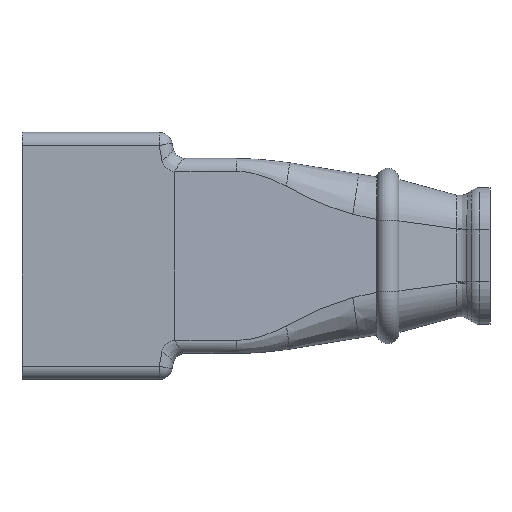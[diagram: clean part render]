
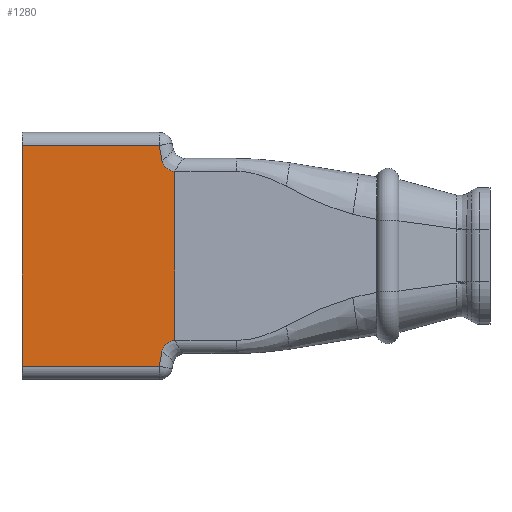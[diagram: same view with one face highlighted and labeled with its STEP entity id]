
A CAD part, top view. The second image highlights one B-rep face of the part: STEP entity #1280.
In plain terms, the highlighted planar face has unit normal (0, 0, 1).
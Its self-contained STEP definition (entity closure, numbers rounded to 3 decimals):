
#200=CARTESIAN_POINT('',(29.525,9.317,105.));
#210=VERTEX_POINT('',#200);
#370=CARTESIAN_POINT('',(29.116,7.,105.));
#380=VERTEX_POINT('',#370);
#410=CARTESIAN_POINT('',(29.116,7.,105.));
#420=DIRECTION('',(0.174,0.985,0.));
#430=VECTOR('',#420,1.);
#440=LINE('',#410,#430);
#450=EDGE_CURVE('',#380,#210,#440,.T.);
#500=CARTESIAN_POINT('',(17.171,23.85,105.));
#510=DIRECTION('',(0.,0.,-1.));
#520=DIRECTION('',(1.,0.,0.));
#530=AXIS2_PLACEMENT_3D('',#500,#510,#520);
#540=PLANE('',#530);
#550=CARTESIAN_POINT('',(8.,41.,105.));
#560=DIRECTION('',(1.,0.,0.));
#570=VECTOR('',#560,1.);
#580=LINE('',#550,#570);
#590=CARTESIAN_POINT('',(8.,41.,105.));
#600=VERTEX_POINT('',#590);
#610=CARTESIAN_POINT('',(29.116,41.,105.));
#620=VERTEX_POINT('',#610);
#630=EDGE_CURVE('',#600,#620,#580,.T.);
#640=ORIENTED_EDGE('',*,*,#630,.F.);
#650=CARTESIAN_POINT('',(29.525,38.683,105.));
#660=DIRECTION('',(-0.174,0.985,0.));
#670=VECTOR('',#660,1.);
#680=LINE('',#650,#670);
#690=CARTESIAN_POINT('',(29.525,38.683,105.));
#700=VERTEX_POINT('',#690);
#710=EDGE_CURVE('',#700,#620,#680,.T.);
#720=ORIENTED_EDGE('',*,*,#710,.T.);
#730=CARTESIAN_POINT('',(31.5,37.,105.));
#740=CARTESIAN_POINT('',(31.383,37.,105.));
#750=CARTESIAN_POINT('',(31.15,37.024,105.));
#760=CARTESIAN_POINT('',(30.815,37.123,105.));
#770=CARTESIAN_POINT('',(30.501,37.28,105.));
#780=CARTESIAN_POINT('',(30.216,37.487,105.));
#790=CARTESIAN_POINT('',(29.967,37.738,105.));
#800=CARTESIAN_POINT('',(29.762,38.025,105.));
#810=CARTESIAN_POINT('',(29.608,38.341,105.));
#820=CARTESIAN_POINT('',(29.545,38.567,105.));
#830=CARTESIAN_POINT('',(29.525,38.683,105.));
#840=B_SPLINE_CURVE_WITH_KNOTS('',3,(#730,#740,#750,#760,#770,#780,#790,
#800,#810,#820,#830),.UNSPECIFIED.,.F.,.F.,(4,1,1,1,1,1,1,1,4),(
0.,0.125,0.25,0.375,0.5,0.625,0.75,0.875,
1.),.UNSPECIFIED.);
#850=CARTESIAN_POINT('',(31.5,37.,105.));
#860=VERTEX_POINT('',#850);
#870=EDGE_CURVE('',#860,#700,#840,.T.);
#880=ORIENTED_EDGE('',*,*,#870,.T.);
#890=CARTESIAN_POINT('',(31.5,11.,105.));
#900=DIRECTION('',(0.,1.,0.));
#910=VECTOR('',#900,1.);
#920=LINE('',#890,#910);
#930=CARTESIAN_POINT('',(31.5,11.,105.));
#940=VERTEX_POINT('',#930);
#950=EDGE_CURVE('',#940,#860,#920,.T.);
#960=ORIENTED_EDGE('',*,*,#950,.T.);
#970=CARTESIAN_POINT('',(29.525,9.317,105.));
#980=CARTESIAN_POINT('',(29.545,9.433,105.));
#990=CARTESIAN_POINT('',(29.608,9.659,105.));
#1000=CARTESIAN_POINT('',(29.762,9.975,105.));
#1010=CARTESIAN_POINT('',(29.967,10.262,105.));
#1020=CARTESIAN_POINT('',(30.216,10.513,105.));
#1030=CARTESIAN_POINT('',(30.501,10.72,105.));
#1040=CARTESIAN_POINT('',(30.815,10.877,105.));
#1050=CARTESIAN_POINT('',(31.15,10.976,105.));
#1060=CARTESIAN_POINT('',(31.383,11.,105.));
#1070=CARTESIAN_POINT('',(31.5,11.,105.));
#1080=B_SPLINE_CURVE_WITH_KNOTS('',3,(#970,#980,#990,#1000,#1010,#1020,
#1030,#1040,#1050,#1060,#1070),.UNSPECIFIED.,.F.,.F.,(4,1,1,1,1,1,1,1,4)
,(0.,0.125,0.25,
0.375,0.5,0.625,0.75,
0.875,1.),.UNSPECIFIED.);
#1090=EDGE_CURVE('',#210,#940,#1080,.T.);
#1100=ORIENTED_EDGE('',*,*,#1090,.T.);
#1110=ORIENTED_EDGE('',*,*,#450,.T.);
#1120=CARTESIAN_POINT('',(29.116,7.,105.));
#1130=DIRECTION('',(-1.,0.,0.));
#1140=VECTOR('',#1130,1.);
#1150=LINE('',#1120,#1140);
#1160=CARTESIAN_POINT('',(8.,7.,105.));
#1170=VERTEX_POINT('',#1160);
#1180=EDGE_CURVE('',#380,#1170,#1150,.T.);
#1190=ORIENTED_EDGE('',*,*,#1180,.F.);
#1200=CARTESIAN_POINT('',(8.,41.,105.));
#1210=DIRECTION('',(0.,-1.,0.));
#1220=VECTOR('',#1210,1.);
#1230=LINE('',#1200,#1220);
#1240=EDGE_CURVE('',#600,#1170,#1230,.T.);
#1250=ORIENTED_EDGE('',*,*,#1240,.T.);
#1260=EDGE_LOOP('',(#1250,#1190,#1110,#1100,#960,#880,#720,#640));
#1270=FACE_OUTER_BOUND('',#1260,.T.);
#1280=ADVANCED_FACE('',(#1270),#540,.F.);
